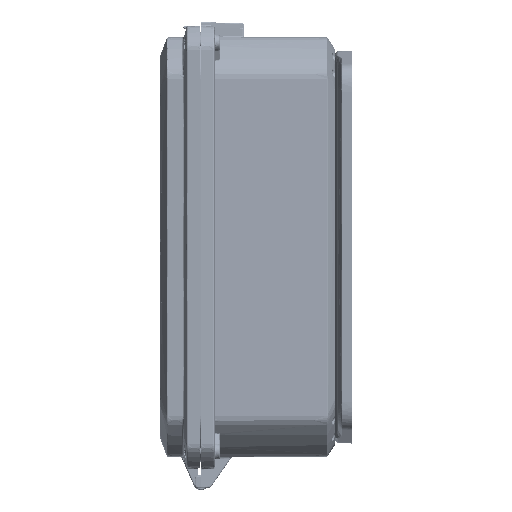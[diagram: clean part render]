
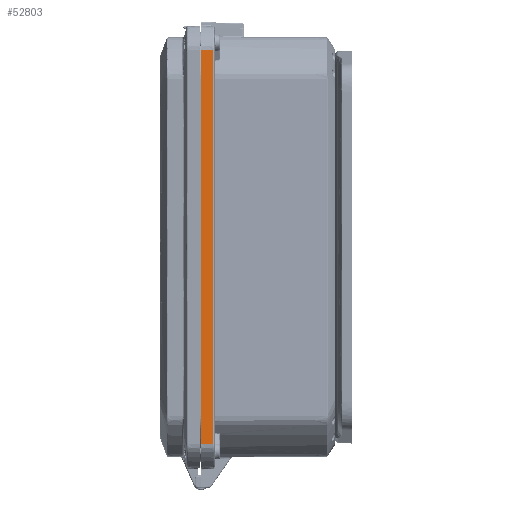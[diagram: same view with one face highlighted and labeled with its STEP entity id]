
A CAD part, left-side view. The second image highlights one B-rep face of the part: STEP entity #52803.
In plain terms, the highlighted planar face has unit normal (-0.999, -0.035, 0).
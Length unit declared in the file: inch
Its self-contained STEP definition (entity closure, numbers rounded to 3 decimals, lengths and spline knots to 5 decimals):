
#6874 = VECTOR ( 'NONE', #79957, 39.37008 ) ;
#8578 = VECTOR ( 'NONE', #42392, 39.37008 ) ;
#10566 = CARTESIAN_POINT ( 'NONE',  ( -7.60772, -0.35174, -5.89046 ) ) ;
#13523 = CARTESIAN_POINT ( 'NONE',  ( -7.62, 0., -5.89046 ) ) ;
#28987 = VERTEX_POINT ( 'NONE', #107279 ) ;
#42392 = DIRECTION ( 'NONE',  ( 0.035, -0.999, 0. ) ) ;
#45463 = DIRECTION ( 'NONE',  ( 0.035, -0.999, 0. ) ) ;
#52803 = ADVANCED_FACE ( 'NONE', ( #278759 ), #283804, .T. ) ;
#54914 = VECTOR ( 'NONE', #232441, 39.37008 ) ;
#65980 = VERTEX_POINT ( 'NONE', #199663 ) ;
#77251 = LINE ( 'NONE', #152361, #81114 ) ;
#79957 = DIRECTION ( 'NONE',  ( 0., 0., 1. ) ) ;
#81114 = VECTOR ( 'NONE', #285066, 39.37008 ) ;
#81435 = EDGE_CURVE ( 'NONE', #320153, #28987, #99610, .T. ) ;
#95501 = EDGE_CURVE ( 'NONE', #65980, #208413, #321818, .T. ) ;
#99610 = LINE ( 'NONE', #254612, #54914 ) ;
#107279 = CARTESIAN_POINT ( 'NONE',  ( -7.60772, -0.35174, 5.89046 ) ) ;
#109040 = EDGE_LOOP ( 'NONE', ( #134377, #243117, #153544, #130387 ) ) ;
#110644 = LINE ( 'NONE', #214534, #6874 ) ;
#130387 = ORIENTED_EDGE ( 'NONE', *, *, #95501, .T. ) ;
#134377 = ORIENTED_EDGE ( 'NONE', *, *, #155632, .T. ) ;
#144169 = AXIS2_PLACEMENT_3D ( 'NONE', #336621, #251531, #45463 ) ;
#152361 = CARTESIAN_POINT ( 'NONE',  ( -7.62, 0., 6.3 ) ) ;
#153544 = ORIENTED_EDGE ( 'NONE', *, *, #242027, .F. ) ;
#155632 = EDGE_CURVE ( 'NONE', #208413, #28987, #110644, .T. ) ;
#199663 = CARTESIAN_POINT ( 'NONE',  ( -7.62, 0., -5.89046 ) ) ;
#208413 = VERTEX_POINT ( 'NONE', #10566 ) ;
#214534 = CARTESIAN_POINT ( 'NONE',  ( -7.60772, -0.35174, 5.89046 ) ) ;
#232441 = DIRECTION ( 'NONE',  ( 0.035, -0.999, 0. ) ) ;
#242027 = EDGE_CURVE ( 'NONE', #65980, #320153, #77251, .T. ) ;
#243117 = ORIENTED_EDGE ( 'NONE', *, *, #81435, .F. ) ;
#251531 = DIRECTION ( 'NONE',  ( -0.999, -0.035, 0. ) ) ;
#254612 = CARTESIAN_POINT ( 'NONE',  ( -7.62, 0., 5.89046 ) ) ;
#278759 = FACE_OUTER_BOUND ( 'NONE', #109040, .T. ) ;
#283804 = PLANE ( 'NONE',  #144169 ) ;
#285066 = DIRECTION ( 'NONE',  ( 0., 0., 1. ) ) ;
#289461 = CARTESIAN_POINT ( 'NONE',  ( -7.62, 0., 5.89046 ) ) ;
#320153 = VERTEX_POINT ( 'NONE', #289461 ) ;
#321818 = LINE ( 'NONE', #13523, #8578 ) ;
#336621 = CARTESIAN_POINT ( 'NONE',  ( -7.62, 0., 6.3 ) ) ;
